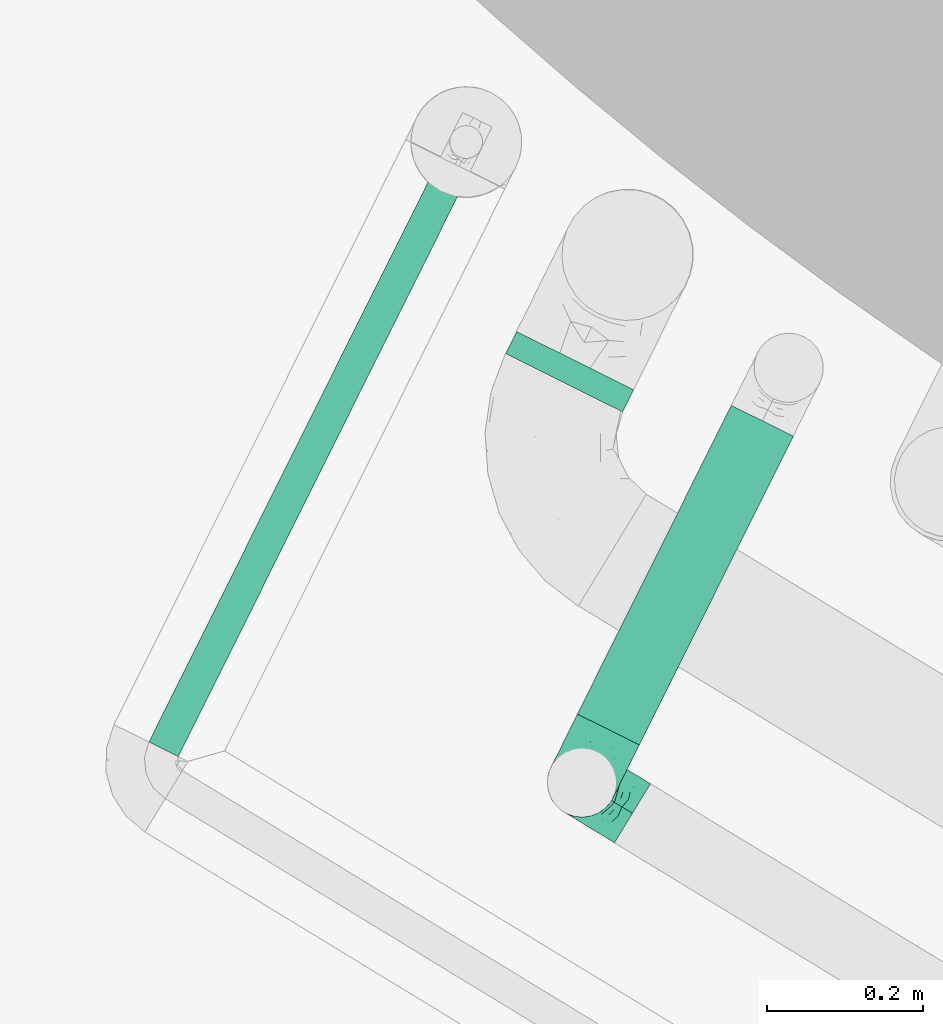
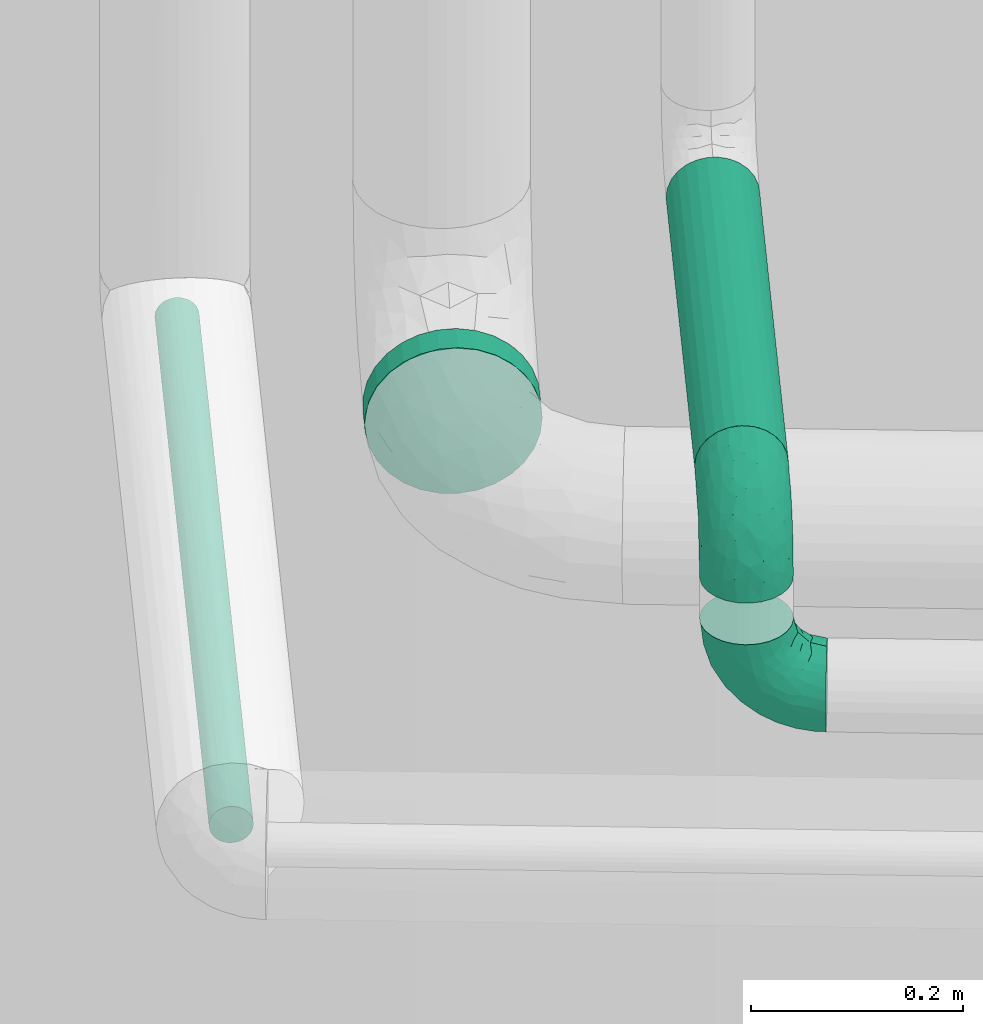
# One storey, part 34 of 47: 3 flow segments, 2 flow fittings.
"""IFC2X3 building model written with IfcOpenShell, lengths in metres."""

from ifc_helpers import new_model, entity, si_unit, converted_unit, derived_unit, direction, frame, frame_2d, origin, origin_2d_with_axis, place, context, subcontext, project, spatial, circle, extrude, faceted_brep, source, transform, mapped, type_object, type_shapes, element, save


model = new_model("IFC2X3")

# Units and contexts
model_context = context("Model", 3, precision=1e-05, world=origin(), true_north=direction((0.894925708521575, 0.446215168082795)))
context_of_model = context(None, 3, precision=1e-05, world=origin(), true_north=direction((0.894925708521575, 0.446215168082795)))
body_context = subcontext(model_context, "Body", "Model", "MODEL_VIEW")
ifc_project = project(units=[si_unit("LENGTHUNIT", "METRE"), si_unit("AREAUNIT", "SQUARE_METRE"), si_unit("VOLUMEUNIT", "CUBIC_METRE"), converted_unit("PLANEANGLEUNIT", "DEGREE", entity("IfcRatioMeasure", 0.0174532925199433), si_unit("PLANEANGLEUNIT", "RADIAN"), dimensions=[0, 0, 0, 0, 0, 0, 0]), si_unit("MASSUNIT", "GRAM", prefix="KILO"), si_unit("TIMEUNIT", "SECOND"), si_unit("FREQUENCYUNIT", "HERTZ"), si_unit("THERMODYNAMICTEMPERATUREUNIT", "DEGREE_CELSIUS"), derived_unit("THERMALTRANSMITTANCEUNIT", [(si_unit("MASSUNIT", "GRAM", prefix="KILO"), 1), (si_unit("THERMODYNAMICTEMPERATUREUNIT", "KELVIN"), -1), (si_unit("TIMEUNIT", "SECOND"), -3)]), derived_unit("VOLUMETRICFLOWRATEUNIT", [(si_unit("LENGTHUNIT", "METRE"), 3), (si_unit("TIMEUNIT", "SECOND"), -1)]), si_unit("ELECTRICCURRENTUNIT", "AMPERE"), si_unit("ELECTRICVOLTAGEUNIT", "VOLT"), si_unit("POWERUNIT", "WATT"), si_unit("FORCEUNIT", "NEWTON", prefix="KILO"), si_unit("ILLUMINANCEUNIT", "LUX"), si_unit("LUMINOUSFLUXUNIT", "LUMEN"), si_unit("LUMINOUSINTENSITYUNIT", "CANDELA"), si_unit("PRESSUREUNIT", "PASCAL")], contexts=[model_context, context_of_model])

# Site, building, storey
site_placement = place(None, frame((218.228324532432, 584.720189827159, 0.0), z_axis=(0.0, 0.0, 1.0), x_axis=(0.446215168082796, 0.894925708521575, 0.0)))
site = spatial("IfcSite", under=ifc_project, at=site_placement, Name="Default", CompositionType="ELEMENT")
building_placement = place(site_placement, origin())
building = spatial("IfcBuilding", under=site, at=building_placement, CompositionType="ELEMENT")
storey_placement = place(building_placement, frame((0.0, 0.0, 4.69)))
storey = spatial("IfcBuildingStorey", under=building, at=storey_placement, Name="1 - Piano Primo", CompositionType="ELEMENT", Elevation=4.69)

# Flow segments
pipe_segment_type = type_object("IfcPipeSegmentType", Name="Tubazione:Antincendio-Tubazione", PredefinedType="NOTDEFINED")
flow_segment_1_placement = place(storey_placement, frame((66.097776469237, -1.79655450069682, 2.9373227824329)))
element("IfcFlowSegment", 1, at=flow_segment_1_placement, inside=storey, type_object=pipe_segment_type, Name="Tubazione:Antincendio-Tubazione", ObjectType="Tubazione:Antincendio-Tubazione", context=body_context, shape_type="SweptSolid", body=[
    extrude(circle(Radius=0.021082, at=origin_2d_with_axis()), frame((0.0, 0.0226772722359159, 0.0226772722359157), z_axis=(1.0, 0.0, 0.0), x_axis=(0.0, 1.0, 0.0)), (0.0, 0.0, 1.0), 0.839170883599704),
])
flow_segment_2_placement = place(storey_placement, frame((66.3753927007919, -2.31966475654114, 3.11395472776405)))
element("IfcFlowSegment", 2, at=flow_segment_2_placement, inside=storey, type_object=pipe_segment_type, Name="Tubazione:Antincendio-Tubazione", ObjectType="Tubazione:Antincendio-Tubazione", context=body_context, shape_type="SweptSolid", body=[
    extrude(circle(Radius=0.04445, at=frame_2d((-1.75965908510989e-14, 0.0), x_axis=(1.0, 0.0))), frame((0.0, 0.0460452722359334, 0.046045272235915), z_axis=(1.0, 0.0, 0.0), x_axis=(0.0, 1.0, 0.0)), (0.0, 0.0, 1.0), 0.442999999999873),
])
flow_segment_3_placement = place(storey_placement, frame((66.7485204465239, -2.10967002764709, 2.87426722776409)))
element("IfcFlowSegment", 3, at=flow_segment_3_placement, inside=storey, type_object=pipe_segment_type, Name="Tubazione:Antincendio-Tubazione", ObjectType="Tubazione:Antincendio-Tubazione", context=body_context, shape_type="SweptSolid", body=[
    extrude(circle(Radius=0.0841375, at=frame_2d((-2.70716779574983e-16, 0.0), x_axis=(1.0, 0.0))), frame((0.0316954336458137, 0.0857327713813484, 0.0857327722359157), z_axis=(-0.999999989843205, 0.000142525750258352, 0.0), x_axis=(-0.000142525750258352, -0.999999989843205, 0.0)), (0.0, 0.0, 1.0), 0.0316834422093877),
])

# Flow fittings
pipe_fitting_type = type_object("IfcPipeFittingType", Name="Standard", PredefinedType="NOTDEFINED")
shared_shape = source(origin(), body_context, "Body", "Brep", [
    faceted_brep([(-0.0759999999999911, 0.0222249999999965, -0.0384948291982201), (-0.0759999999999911, 0.0115045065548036, -0.0429354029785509), (-0.0759999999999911, 0.0, -0.0444500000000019), (-0.0759999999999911, -0.0115045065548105, -0.042935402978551), (-0.075999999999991, -0.0222250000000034, -0.0384948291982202), (-0.075999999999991, -0.0314308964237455, -0.031430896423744), (-0.075999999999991, -0.0384948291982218, -0.022225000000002), (-0.075999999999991, -0.0429354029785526, -0.011504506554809), (-0.075999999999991, -0.0444500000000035, 0.0), (-0.075999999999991, -0.0429354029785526, 0.011504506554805), (-0.075999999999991, -0.0384948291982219, 0.022224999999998), (-0.075999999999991, -0.0314308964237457, 0.0314308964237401), (-0.075999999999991, -0.0222250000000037, 0.0384948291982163), (-0.0759999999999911, -0.0115045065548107, 0.0429354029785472), (-0.0759999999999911, 0.0, 0.0444499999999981), (-0.0759999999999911, 0.0115045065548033, 0.0429354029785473), (-0.0759999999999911, 0.0222249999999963, 0.0384948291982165), (-0.0759999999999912, 0.0314308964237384, 0.0314308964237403), (-0.0759999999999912, 0.0384948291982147, 0.0222249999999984), (-0.0759999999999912, 0.0429354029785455, 0.0115045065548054), (-0.0759999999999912, 0.0444499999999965, 0.0), (-0.0759999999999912, 0.0429354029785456, -0.0115045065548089), (-0.0759999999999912, 0.0384948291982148, -0.0222250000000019), (-0.0759999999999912, 0.0314308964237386, -0.0314308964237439), (0.0, 0.0759999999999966, -0.0444500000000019), (-0.0115045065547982, 0.0759999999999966, -0.0429354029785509), (-0.0222249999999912, 0.0759999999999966, -0.0384948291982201), (-0.0314308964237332, 0.0759999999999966, -0.0314308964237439), (-0.0384948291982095, 0.0759999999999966, -0.0222250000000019), (-0.0429354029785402, 0.0759999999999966, -0.0115045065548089), (-0.0444499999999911, 0.0759999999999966, 0.0), (-0.0429354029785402, 0.0759999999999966, 0.0115045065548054), (-0.0384948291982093, 0.0759999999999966, 0.0222249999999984), (-0.031430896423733, 0.0759999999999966, 0.0314308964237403), (-0.0222249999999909, 0.0759999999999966, 0.0384948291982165), (-0.011504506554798, 0.0759999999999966, 0.0429354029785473), (0.0, 0.0759999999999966, 0.0444499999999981), (0.0115045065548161, 0.0759999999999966, 0.0429354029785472), (0.022225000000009, 0.0759999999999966, 0.0384948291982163), (0.031430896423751, 0.0759999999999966, 0.0314308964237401), (0.0384948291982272, 0.0759999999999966, 0.022224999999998), (0.042935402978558, 0.0759999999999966, 0.011504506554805), (0.0444500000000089, 0.0759999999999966, 0.0), (0.0429354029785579, 0.0759999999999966, -0.011504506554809), (0.0384948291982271, 0.0759999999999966, -0.022225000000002), (0.0314308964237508, 0.0759999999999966, -0.031430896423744), (0.0222250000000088, 0.0759999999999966, -0.0384948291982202), (0.0115045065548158, 0.0759999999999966, -0.042935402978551), (-0.055251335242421, -0.0350999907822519, 0.0246019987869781), (-0.0387789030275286, -0.0385547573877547, 0.0), (-0.0513960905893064, -0.0397481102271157, 0.0135506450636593), (-0.0541387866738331, -0.0409875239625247, 0.0), (0.0164280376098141, 0.018681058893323, 0.0300447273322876), (0.0133440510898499, 0.00595972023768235, 0.0238254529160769), (0.0227502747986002, 0.0181678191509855, 0.0223222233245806), (-0.0566160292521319, 0.00529376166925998, 0.0443688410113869), (-0.0518504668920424, 0.0178853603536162, 0.0424858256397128), (-0.0658426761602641, 0.0162370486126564, 0.0417044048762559), (0.00670599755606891, 0.0058076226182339, 0.0303487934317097), (0.00217280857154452, -0.00488037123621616, 0.0253915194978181), (0.0217662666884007, 0.0334721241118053, 0.0322256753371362), (0.0133779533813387, 0.0277507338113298, 0.0363591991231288), (-0.0489098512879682, -0.0265635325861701, 0.0327252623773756), (-0.0551815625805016, -0.0175181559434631, 0.0397928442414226), (-0.0321967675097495, -0.0350744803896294, 0.0096061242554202), (-0.0219900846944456, -0.0300004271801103, 0.0), (-0.0380359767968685, 0.0129504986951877, 0.0443849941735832), (-0.0499161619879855, 0.0304962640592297, 0.0376985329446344), (-0.0641975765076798, 0.0266916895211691, 0.0365481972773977), (-0.0267918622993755, 0.0407735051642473, 0.0416664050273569), (-0.0178853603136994, 0.0518504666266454, 0.0424858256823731), (-0.0304962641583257, 0.0499161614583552, 0.0376985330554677), (-0.0162370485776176, 0.0658426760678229, 0.0417044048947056), (-0.00529376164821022, 0.0566160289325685, 0.0443688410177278), (-0.060002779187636, 0.0363683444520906, 0.0294868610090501), (-0.0571942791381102, -0.00652591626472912, 0.0436019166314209), (-0.0131742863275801, -0.0091104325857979, 0.0329931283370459), (-0.0104548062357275, -0.0146502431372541, 0.0262592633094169), (-0.0363683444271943, 0.060002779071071, 0.0294868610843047), (-0.0266916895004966, 0.0641975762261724, 0.036548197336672), (-0.0591167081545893, 0.0427163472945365, 0.0219026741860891), (-0.0130572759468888, 0.0374829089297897, 0.0443951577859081), (-0.0283996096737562, 0.02839960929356, 0.0435936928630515), (-0.0206947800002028, 0.0157137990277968, 0.0440684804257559), (-0.0622162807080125, 0.0455810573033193, 0.0126773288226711), (-0.0512634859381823, 0.0512634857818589, 0.0171284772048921), (-0.0440264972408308, 0.0440264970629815, 0.032066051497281), (-0.0427163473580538, 0.0591167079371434, 0.0219026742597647), (-0.0484175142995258, 0.0479614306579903, 0.0251239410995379), (0.0175181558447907, 0.0551815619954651, 0.0397928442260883), (0.0265635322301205, 0.0489098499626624, 0.0327252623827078), (-0.0531667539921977, 0.0531667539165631, 0.00808290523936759), (0.0397481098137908, 0.0513960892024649, 0.0135506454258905), (0.0350999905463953, 0.0552513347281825, 0.0246019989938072), (0.0300990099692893, 0.0319822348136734, 0.0215664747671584), (0.00652591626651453, 0.0571942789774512, 0.0436019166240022), (-0.0360375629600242, -0.00228367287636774, 0.0428291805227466), (0.0409875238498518, 0.0541387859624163, 0.0), (-0.00769711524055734, 0.023069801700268, 0.0432135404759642), (-0.0161281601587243, 0.00441100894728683, 0.0409345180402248), (-0.000438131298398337, 0.0181073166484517, 0.0400941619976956), (0.0300004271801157, 0.0219900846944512, 0.0), (0.0350744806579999, 0.0321967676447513, 0.00960612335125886), (0.0263186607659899, 0.0155052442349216, 0.0117666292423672), (-0.0291179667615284, -0.0225220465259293, 0.0296592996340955), (-0.0277507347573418, -0.0133779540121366, 0.0363591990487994), (-0.0602249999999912, 0.0486768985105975, 0.0), (-0.0486768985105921, 0.0602249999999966, 0.0), (-0.0455810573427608, 0.0622162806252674, 0.0126773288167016), (-0.0407466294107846, 0.0268307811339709, 0.0416604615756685), (-0.0377601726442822, 0.0377601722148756, 0.0386689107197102), (-0.00520126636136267, -0.0214460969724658, 0.0), (-0.0155052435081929, -0.0263186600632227, 0.0117666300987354), (-0.0319822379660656, -0.0300990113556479, 0.0215664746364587), (0.00228367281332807, 0.0360375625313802, 0.0428291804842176), (0.0214460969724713, 0.00520126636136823, 0.0), (0.0160594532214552, -0.000115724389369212, 0.00937076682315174), (0.00329314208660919, -0.0118779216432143, 0.0134585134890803), (0.0186652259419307, 0.00689538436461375, 0.0166724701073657), (0.0385547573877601, 0.0387789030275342, 0.0), (-0.00882562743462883, -0.0191172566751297, 0.0184368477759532), (0.00812241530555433, -0.00812241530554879, 0.0), (-0.00308956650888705, 0.00308956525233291, 0.0352249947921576), (0.00665750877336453, 0.014449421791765, 0.0352664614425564), (-0.0663119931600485, 0.0352211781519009, -0.0285295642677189), (0.0356416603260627, 0.063567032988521, -0.0256086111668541), (-0.0597195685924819, 0.00503106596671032, -0.0443355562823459), (-0.0428757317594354, 0.0435409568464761, -0.0331401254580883), (-0.0472933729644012, 0.0477547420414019, -0.0264450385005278), (-0.0380854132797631, 0.0547099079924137, -0.0303060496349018), (-0.0408534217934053, 0.00868227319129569, -0.0444499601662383), (-0.0550040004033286, 0.0172386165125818, -0.0423182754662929), (-0.0619986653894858, 0.0454344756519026, -0.0134059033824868), (-0.0424796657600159, 0.058945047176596, -0.0224049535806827), (-0.0530961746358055, 0.0530961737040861, -0.008605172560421), (-0.005031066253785, 0.0597195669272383, -0.0443355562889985), (-0.0172386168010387, 0.0550039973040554, -0.0423182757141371), (-0.0453499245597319, 0.0261375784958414, -0.0408727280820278), (-0.0597445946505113, 0.0272482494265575, -0.0370157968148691), (-0.0484821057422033, 0.0337753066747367, -0.0363378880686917), (-0.0108421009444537, 0.0108420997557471, -0.0414134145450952), (0.00292359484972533, 0.0313950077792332, -0.0419642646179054), (0.00576470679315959, 0.015577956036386, -0.036290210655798), (-0.0239048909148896, 0.00889487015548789, -0.0435390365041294), (-0.0280822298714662, 0.0165780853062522, -0.0444487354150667), (-0.0155353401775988, 0.0222215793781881, -0.0441768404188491), (-0.0548671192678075, -0.0402641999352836, -0.0140556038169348), (-0.0635670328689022, -0.035641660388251, -0.0256086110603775), (-0.0468237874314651, -0.0338951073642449, -0.0235445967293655), (-0.0542773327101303, -0.0272310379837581, -0.0332571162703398), (-0.0295224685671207, -0.0279582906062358, -0.0232657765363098), (0.0206432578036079, 0.026645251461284, -0.0303065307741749), (0.0272310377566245, 0.0542773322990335, -0.0332571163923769), (0.0338951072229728, 0.0468237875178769, -0.0235445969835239), (-0.063773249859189, -0.0178670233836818, -0.0403436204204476), (-0.0454344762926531, 0.0619986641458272, -0.0134059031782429), (-0.0509858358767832, 0.0509858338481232, -0.018040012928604), (-0.0266452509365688, -0.0206432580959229, -0.0303065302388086), (0.0402641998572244, 0.0548671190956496, -0.0140556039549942), (0.033135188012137, 0.0290265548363, -0.0119449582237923), (-0.0471571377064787, -0.0164855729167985, -0.0392413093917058), (-0.0554032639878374, -0.00637620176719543, -0.0435474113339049), (-0.031395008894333, -0.00292359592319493, -0.0419642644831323), (-0.0589796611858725, 0.0424071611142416, -0.0224886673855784), (-0.0283863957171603, -0.0127648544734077, -0.0369364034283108), (-0.0110970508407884, -0.00438905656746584, -0.0350639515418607), (-0.0353996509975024, -0.0349521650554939, -0.0141213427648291), (-0.0539297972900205, 0.0384008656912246, -0.0304288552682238), (-0.0272482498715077, 0.0597445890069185, -0.0370157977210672), (0.0063762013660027, 0.0554032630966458, -0.0435474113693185), (0.0178670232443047, 0.0637732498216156, -0.0403436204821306), (-0.0130026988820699, -0.0185218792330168, -0.0237207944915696), (0.00307688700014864, -0.0126882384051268, -0.0119183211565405), (-0.0178636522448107, -0.0261829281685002, -0.0157567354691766), (0.01648557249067, 0.0471571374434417, -0.0392413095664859), (-0.0351708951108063, 0.0668051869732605, -0.0284550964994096), (-0.0143062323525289, -0.0267882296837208, -0.00708720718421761), (-0.0367961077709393, 0.036796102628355, -0.0394106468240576), (-0.0263944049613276, 0.0276845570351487, -0.0439339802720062), (0.0115291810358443, 0.0308300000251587, -0.0383364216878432), (0.0277415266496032, 0.0267890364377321, -0.0216489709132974), (-0.00868227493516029, 0.040853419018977, -0.0444499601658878), (-0.0263216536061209, 0.0459443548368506, -0.0406700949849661), (-0.0192830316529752, 0.0407360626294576, -0.0434845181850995), (-0.0337233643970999, 0.049471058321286, -0.0359883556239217), (-0.0405538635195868, 0.018597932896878, -0.0436227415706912), (0.00798111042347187, 0.00716693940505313, -0.0302321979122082), (0.0176308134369, 0.0122534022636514, -0.0242211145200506), (0.00408183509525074, -0.00408183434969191, -0.0242493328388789), (0.0197800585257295, 0.00739832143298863, -0.0150810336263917)], [[[0, 1, 2, 3, 4, 5, 6, 7, 8, 9, 10, 11, 12, 13, 14, 15, 16, 17, 18, 19, 20, 21, 22, 23]], [[24, 25, 26, 27, 28, 29, 30, 31, 32, 33, 34, 35, 36, 37, 38, 39, 40, 41, 42, 43, 44, 45, 46, 47]], [[10, 48, 11]], [[49, 50, 51]], [[52, 53, 54]], [[9, 50, 10]], [[9, 51, 50]], [[55, 56, 57]], [[48, 10, 50]], [[58, 59, 53]], [[60, 61, 52]], [[62, 12, 11]], [[62, 63, 12]], [[64, 49, 65]], [[56, 55, 66]], [[56, 67, 68]], [[69, 70, 71]], [[16, 15, 57]], [[35, 72, 73]], [[74, 18, 17]], [[75, 14, 13]], [[76, 77, 59]], [[78, 71, 79]], [[74, 80, 18]], [[81, 82, 83]], [[20, 19, 84]], [[85, 84, 80]], [[70, 81, 73]], [[86, 74, 67]], [[87, 88, 78]], [[38, 89, 90]], [[85, 91, 84]], [[92, 93, 94]], [[17, 16, 68]], [[93, 40, 39]], [[36, 95, 37]], [[96, 66, 55]], [[36, 35, 73]], [[90, 39, 38]], [[92, 97, 41]], [[98, 99, 100]], [[93, 92, 40]], [[31, 87, 32]], [[92, 41, 40]], [[71, 78, 86]], [[101, 102, 103]], [[104, 105, 62]], [[106, 91, 107]], [[96, 63, 105]], [[107, 108, 30]], [[109, 69, 110]], [[107, 91, 108]], [[111, 112, 65]], [[32, 78, 33]], [[89, 38, 37]], [[31, 108, 87]], [[89, 61, 60]], [[79, 34, 33]], [[72, 35, 34]], [[12, 63, 13]], [[113, 62, 48]], [[103, 102, 94]], [[80, 88, 85]], [[15, 14, 55]], [[70, 69, 81]], [[95, 73, 114]], [[75, 55, 14]], [[96, 83, 66]], [[105, 63, 62]], [[75, 63, 96]], [[104, 62, 113]], [[105, 76, 99]], [[95, 89, 37]], [[61, 89, 114]], [[100, 61, 114]], [[58, 53, 52]], [[86, 67, 110]], [[70, 72, 79]], [[74, 17, 68]], [[109, 82, 69]], [[113, 48, 50]], [[62, 11, 48]], [[39, 90, 93]], [[94, 93, 90]], [[64, 113, 50]], [[115, 103, 116]], [[53, 59, 117]], [[53, 118, 54]], [[73, 95, 36]], [[89, 95, 114]], [[63, 75, 13]], [[55, 75, 96]], [[106, 20, 84]], [[108, 91, 85]], [[106, 84, 91]], [[80, 19, 18]], [[80, 84, 19]], [[88, 74, 86]], [[108, 85, 87]], [[108, 31, 30]], [[87, 85, 88]], [[32, 87, 78]], [[82, 109, 66]], [[114, 73, 81]], [[99, 83, 96]], [[81, 83, 98]], [[9, 8, 51]], [[97, 92, 119]], [[97, 42, 41]], [[82, 66, 83]], [[120, 113, 112]], [[117, 121, 116]], [[74, 88, 80]], [[88, 86, 78]], [[65, 112, 64]], [[111, 117, 112]], [[120, 112, 117]], [[101, 103, 115]], [[92, 102, 119]], [[118, 117, 116]], [[113, 64, 112]], [[49, 64, 50]], [[119, 102, 101]], [[94, 102, 92]], [[105, 99, 96]], [[100, 99, 122]], [[100, 122, 123]], [[98, 100, 114]], [[78, 79, 33]], [[70, 79, 71]], [[68, 16, 57]], [[74, 68, 67]], [[81, 98, 114]], [[99, 98, 83]], [[118, 116, 103]], [[54, 103, 94]], [[121, 117, 111]], [[121, 115, 116]], [[117, 118, 53]], [[103, 54, 118]], [[90, 60, 94]], [[54, 94, 60]], [[58, 123, 122]], [[123, 52, 61]], [[76, 59, 58]], [[76, 58, 122]], [[59, 77, 120]], [[52, 123, 58]], [[100, 123, 61]], [[60, 52, 54]], [[89, 60, 90]], [[79, 72, 34]], [[73, 72, 70]], [[55, 57, 15]], [[68, 57, 56]], [[113, 77, 104]], [[76, 104, 77]], [[110, 69, 71]], [[81, 69, 82]], [[86, 110, 71]], [[110, 67, 109]], [[67, 56, 109]], [[66, 109, 56]], [[99, 76, 122]], [[104, 76, 105]], [[59, 120, 117]], [[113, 120, 77]], [[22, 124, 23]], [[45, 44, 125]], [[1, 126, 2]], [[127, 128, 129]], [[130, 126, 131]], [[131, 1, 0]], [[106, 132, 20]], [[129, 128, 133]], [[132, 106, 134]], [[25, 135, 136]], [[137, 138, 139]], [[140, 141, 142]], [[143, 144, 145]], [[138, 131, 0]], [[146, 6, 147]], [[148, 149, 150]], [[146, 51, 7]], [[151, 152, 153]], [[149, 5, 4]], [[0, 23, 138]], [[154, 149, 4]], [[155, 133, 156]], [[6, 146, 7]], [[147, 6, 5]], [[150, 149, 157]], [[154, 4, 3]], [[158, 44, 43]], [[153, 158, 159]], [[106, 107, 134]], [[125, 152, 45]], [[30, 29, 155]], [[160, 161, 162]], [[132, 163, 21]], [[164, 162, 165]], [[146, 148, 166]], [[128, 127, 167]], [[168, 27, 26]], [[46, 45, 152]], [[169, 47, 170]], [[171, 172, 173]], [[152, 174, 170]], [[24, 135, 25]], [[28, 27, 175]], [[47, 46, 170]], [[176, 172, 111]], [[137, 177, 178]], [[142, 141, 179]], [[153, 159, 180]], [[141, 181, 169]], [[161, 160, 154]], [[153, 125, 158]], [[47, 169, 24]], [[158, 97, 119]], [[26, 136, 168]], [[161, 3, 2]], [[151, 174, 152]], [[156, 163, 132]], [[25, 136, 26]], [[182, 183, 178]], [[134, 155, 156]], [[127, 129, 184]], [[131, 137, 185]], [[141, 169, 174]], [[135, 169, 181]], [[179, 151, 142]], [[141, 140, 145]], [[158, 43, 97]], [[159, 158, 119]], [[115, 159, 119, 101]], [[157, 149, 160]], [[147, 149, 148]], [[126, 161, 2]], [[145, 140, 143]], [[130, 162, 161]], [[162, 140, 165]], [[150, 171, 173]], [[65, 176, 111]], [[142, 165, 140]], [[153, 180, 151]], [[148, 150, 166]], [[43, 42, 97]], [[107, 30, 155]], [[132, 134, 156]], [[124, 138, 23]], [[167, 127, 139]], [[184, 182, 177]], [[175, 168, 129]], [[186, 151, 187]], [[188, 171, 165]], [[165, 142, 186]], [[165, 157, 164]], [[107, 155, 134]], [[133, 29, 28]], [[29, 133, 155]], [[175, 133, 28]], [[128, 163, 156]], [[132, 21, 20]], [[124, 163, 167]], [[21, 163, 22]], [[163, 128, 167]], [[156, 133, 128]], [[51, 146, 49]], [[51, 8, 7]], [[184, 129, 168]], [[167, 139, 138]], [[127, 177, 139]], [[137, 139, 177]], [[178, 177, 182]], [[138, 137, 131]], [[145, 178, 181]], [[131, 185, 130]], [[137, 178, 185]], [[144, 185, 178]], [[182, 168, 136]], [[177, 127, 184]], [[168, 182, 184]], [[182, 136, 183]], [[136, 181, 183]], [[181, 178, 183]], [[131, 126, 1]], [[161, 126, 130]], [[169, 135, 24]], [[136, 135, 181]], [[176, 166, 173]], [[49, 146, 166]], [[189, 172, 188]], [[49, 166, 65]], [[189, 121, 172]], [[180, 187, 151]], [[189, 159, 115]], [[141, 145, 181]], [[140, 162, 143]], [[166, 176, 65]], [[172, 176, 173]], [[162, 130, 143]], [[144, 143, 130]], [[185, 144, 130]], [[178, 145, 144]], [[163, 124, 22]], [[138, 124, 167]], [[152, 170, 46]], [[169, 170, 174]], [[158, 125, 44]], [[152, 125, 153]], [[161, 154, 3]], [[149, 154, 160]], [[149, 147, 5]], [[146, 147, 148]], [[168, 175, 27]], [[133, 175, 129]], [[159, 189, 180]], [[187, 180, 189]], [[189, 188, 187]], [[186, 187, 188]], [[165, 186, 188]], [[151, 186, 142]], [[171, 150, 157]], [[166, 150, 173]], [[165, 171, 157]], [[172, 171, 188]], [[141, 174, 179]], [[151, 179, 174]], [[157, 160, 164]], [[162, 164, 160]], [[121, 189, 115]], [[121, 111, 172]]]),
])
type_shapes(pipe_fitting_type, [shared_shape])
for number, where, z_axis, x_axis, name in (
    (4, (66.2993927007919, -2.27361948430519, 2.96), (0.996430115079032, -0.0844217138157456, 0.0), (0.0844217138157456, 0.996430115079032, 0.0), "M_Gomito - Saldato - Generico:Standard"),
    (5, (66.2993927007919, -2.27361948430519, 3.16), (0.0, 1.0, 0.0), (0.0, 0.0, 1.0), "M_Gomito - Saldato - Generico:Standard"),
):
    element("IfcFlowFitting", number, at=place(storey_placement, frame(where, z_axis=z_axis, x_axis=x_axis)), inside=storey, type_object=pipe_fitting_type, Name=name, ObjectType="Standard", context=body_context, shape_type="MappedRepresentation", body=[
        mapped(shared_shape, transform((0.0, 0.0, 0.0), scale=1.0)),
    ])

save(model, "model.ifc")
